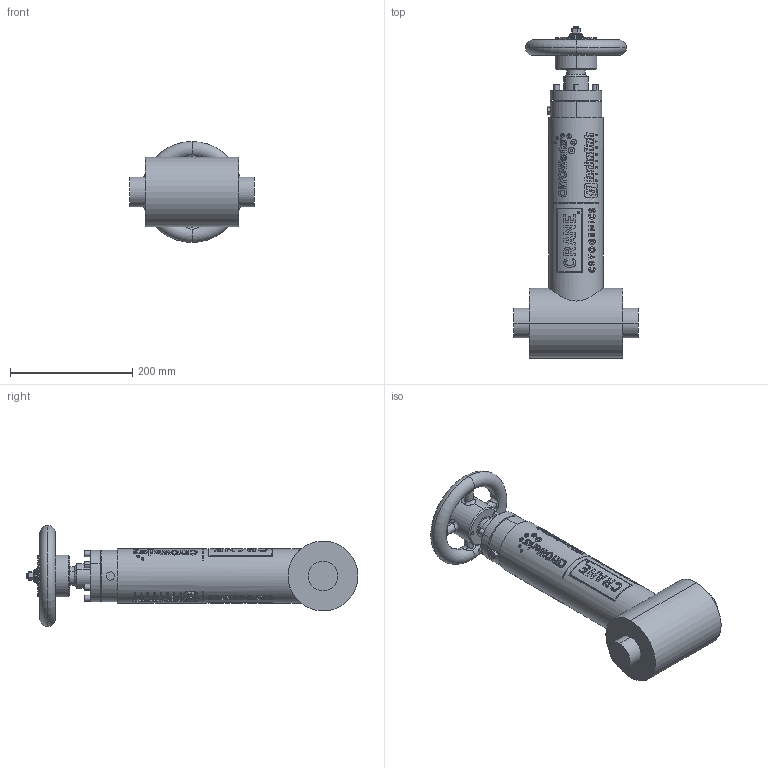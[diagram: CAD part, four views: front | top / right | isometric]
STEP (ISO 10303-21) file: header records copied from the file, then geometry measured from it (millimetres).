
FILE_DESCRIPTION (( 'STEP AP203' ), '1' );
FILE_NAME ('1.5IN T-PATTERN MANUAL CRANE BELLOWS SEAL VALVE.step', '2025-12-17T20:05:31', ( '' ), ( '' ), 'SwSTEP 2.0', 'SolidWorks 2023', '' );
FILE_SCHEMA (( 'CONFIG_CONTROL_DESIGN' ));
Length unit declared in the file: inch
Products named in the file (1): 1.5IN T-PATTERN MANUAL CRANE BELLOWS SEAL VALVE
Bounding box: 203.2 x 543.1 x 165.1 mm (x, y, z)
Volume: 4117531.9 mm3; surface area: 260509.7 mm2
Topology: 1 solids, 1 shells, 1332 faces, 3433 edges, 2282 vertices
Faces by surface type: plane 774, cylinder 379, bspline 143, cone 26, torus 10
Full cylindrical faces by diameter (mm): 1.494 x2, 1.636 x2, 1.778 x2, 2.039 x2, 2.302 x2, 2.967 x2, 3.071 x2, 3.409 x2, 3.632 x2, 3.807 x2, 4.009 x2, 4.573 x2, 6.177 x2, 7.63 x2, 9.232 x2, 10.749 x2, 88.9 x1
Entity records: 86153 total; most frequent: CARTESIAN_POINT 56790, ORIENTED_EDGE 6750, DIRECTION 5009, EDGE_CURVE 3375, VERTEX_POINT 2276, AXIS2_PLACEMENT_3D 1685, LINE 1639, VECTOR 1639
